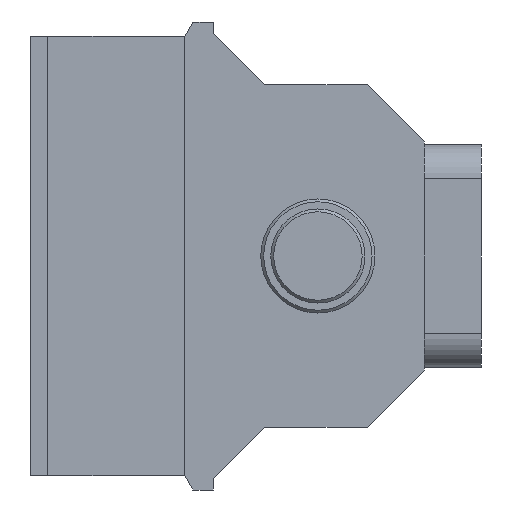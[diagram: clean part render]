
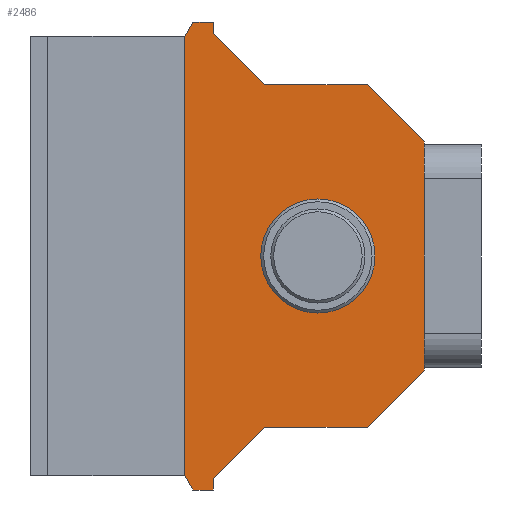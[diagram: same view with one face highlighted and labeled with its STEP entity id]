
A CAD part, left-side view. The second image highlights one B-rep face of the part: STEP entity #2486.
In plain terms, the highlighted planar face has unit normal (-1, 0, 0).
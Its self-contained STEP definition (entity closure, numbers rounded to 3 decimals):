
#41 = ORIENTED_EDGE ( 'NONE', *, *, #2057, .F. ) ;
#49 = CARTESIAN_POINT ( 'NONE',  ( -13.5, 20., 20. ) ) ;
#72 = CARTESIAN_POINT ( 'NONE',  ( -13.5, 57., -39. ) ) ;
#95 = LINE ( 'NONE', #1060, #2270 ) ;
#119 = CARTESIAN_POINT ( 'NONE',  ( -13.5, 57., 41. ) ) ;
#125 = DIRECTION ( 'NONE',  ( 0., -0.5, -0.866 ) ) ;
#128 = LINE ( 'NONE', #2067, #704 ) ;
#151 = CARTESIAN_POINT ( 'NONE',  ( -13.5, 38.66, -10. ) ) ;
#155 = DIRECTION ( 'NONE',  ( 0., 0., -1. ) ) ;
#170 = LINE ( 'NONE', #1134, #1700 ) ;
#180 = CARTESIAN_POINT ( 'NONE',  ( -13.5, 50.358, 58.665 ) ) ;
#183 = VERTEX_POINT ( 'NONE', #524 ) ;
#220 = VERTEX_POINT ( 'NONE', #1468 ) ;
#255 = ORIENTED_EDGE ( 'NONE', *, *, #728, .T. ) ;
#298 = CARTESIAN_POINT ( 'NONE',  ( -13.5, 30., -30. ) ) ;
#336 = EDGE_LOOP ( 'NONE', ( #1927, #255, #1070, #1413, #562, #544, #2282, #1771, #2419, #3004, #702, #2049, #2621, #2734, #593, #41 ) ) ;
#341 = CARTESIAN_POINT ( 'NONE',  ( -13.5, 62., 62.5 ) ) ;
#395 = VECTOR ( 'NONE', #155, 1000. ) ;
#397 = DIRECTION ( 'NONE',  ( 0., -0.707, -0.707 ) ) ;
#398 = LINE ( 'NONE', #119, #1436 ) ;
#399 = VECTOR ( 'NONE', #1048, 1000. ) ;
#405 = VERTEX_POINT ( 'NONE', #1525 ) ;
#416 = CARTESIAN_POINT ( 'NONE',  ( -13.5, 104.484, 35.085 ) ) ;
#434 = DIRECTION ( 'NONE',  ( 0., -1., 0. ) ) ;
#441 = VERTEX_POINT ( 'NONE', #72 ) ;
#524 = CARTESIAN_POINT ( 'NONE',  ( -13.5, 60.557, 41. ) ) ;
#537 = EDGE_CURVE ( 'NONE', #1449, #2655, #2766, .T. ) ;
#539 = VECTOR ( 'NONE', #397, 1000. ) ;
#543 = LINE ( 'NONE', #298, #399 ) ;
#544 = ORIENTED_EDGE ( 'NONE', *, *, #2920, .F. ) ;
#562 = ORIENTED_EDGE ( 'NONE', *, *, #2865, .T. ) ;
#590 = CARTESIAN_POINT ( 'NONE',  ( -13.5, 30., -30. ) ) ;
#593 = ORIENTED_EDGE ( 'NONE', *, *, #537, .F. ) ;
#605 = CARTESIAN_POINT ( 'NONE',  ( -13.5, 57., -41. ) ) ;
#610 = VERTEX_POINT ( 'NONE', #1216 ) ;
#620 = LINE ( 'NONE', #905, #395 ) ;
#702 = ORIENTED_EDGE ( 'NONE', *, *, #2680, .F. ) ;
#704 = VECTOR ( 'NONE', #1850, 1000. ) ;
#705 = CARTESIAN_POINT ( 'NONE',  ( -13.5, 20., -20. ) ) ;
#728 = EDGE_CURVE ( 'NONE', #183, #2311, #1581, .T. ) ;
#742 = LINE ( 'NONE', #771, #2071 ) ;
#764 = CARTESIAN_POINT ( 'NONE',  ( -13.5, 62., 38.5 ) ) ;
#771 = CARTESIAN_POINT ( 'NONE',  ( -13.5, 48., -30. ) ) ;
#781 = EDGE_CURVE ( 'NONE', #2735, #2238, #2338, .T. ) ;
#835 = AXIS2_PLACEMENT_3D ( 'NONE', #2761, #2995, #1852 ) ;
#897 = CARTESIAN_POINT ( 'NONE',  ( -13.5, 30., 30. ) ) ;
#905 = CARTESIAN_POINT ( 'NONE',  ( -13.5, 57., 62.5 ) ) ;
#925 = VERTEX_POINT ( 'NONE', #49 ) ;
#963 = DIRECTION ( 'NONE',  ( 0., 1., 0. ) ) ;
#973 = CIRCLE ( 'NONE', #835, 10. ) ;
#1001 = VECTOR ( 'NONE', #125, 1000. ) ;
#1014 = EDGE_LOOP ( 'NONE', ( #3002 ) ) ;
#1015 = LINE ( 'NONE', #341, #2194 ) ;
#1016 = DIRECTION ( 'NONE',  ( 0., 0.707, -0.707 ) ) ;
#1038 = VERTEX_POINT ( 'NONE', #2814 ) ;
#1048 = DIRECTION ( 'NONE',  ( 0., 0.707, -0.707 ) ) ;
#1060 = CARTESIAN_POINT ( 'NONE',  ( -13.5, 20., -20. ) ) ;
#1070 = ORIENTED_EDGE ( 'NONE', *, *, #2536, .F. ) ;
#1087 = VERTEX_POINT ( 'NONE', #2874 ) ;
#1131 = DIRECTION ( 'NONE',  ( 0., 1., 0. ) ) ;
#1134 = CARTESIAN_POINT ( 'NONE',  ( -13.5, 57., -39. ) ) ;
#1216 = CARTESIAN_POINT ( 'NONE',  ( -13.5, 20., 19.5 ) ) ;
#1306 = DIRECTION ( 'NONE',  ( 0., 0., 1. ) ) ;
#1310 = CARTESIAN_POINT ( 'NONE',  ( -13.5, 57., 39. ) ) ;
#1357 = EDGE_CURVE ( 'NONE', #1820, #1820, #973, .T. ) ;
#1368 = EDGE_CURVE ( 'NONE', #2238, #441, #742, .T. ) ;
#1413 = ORIENTED_EDGE ( 'NONE', *, *, #2793, .T. ) ;
#1433 = DIRECTION ( 'NONE',  ( 0., 0., -1. ) ) ;
#1436 = VECTOR ( 'NONE', #1131, 1000. ) ;
#1441 = EDGE_CURVE ( 'NONE', #925, #610, #95, .T. ) ;
#1449 = VERTEX_POINT ( 'NONE', #1310 ) ;
#1468 = CARTESIAN_POINT ( 'NONE',  ( -13.5, 57., -41. ) ) ;
#1494 = CARTESIAN_POINT ( 'NONE',  ( -13.5, 62., -38.5 ) ) ;
#1525 = CARTESIAN_POINT ( 'NONE',  ( -13.5, 20., -19.5 ) ) ;
#1581 = LINE ( 'NONE', #180, #2340 ) ;
#1658 = FACE_OUTER_BOUND ( 'NONE', #336, .T. ) ;
#1662 = LINE ( 'NONE', #2341, #1834 ) ;
#1677 = VERTEX_POINT ( 'NONE', #2929 ) ;
#1700 = VECTOR ( 'NONE', #2999, 1000. ) ;
#1703 = DIRECTION ( 'NONE',  ( 1., 0., 0. ) ) ;
#1749 = CARTESIAN_POINT ( 'NONE',  ( -13.5, 20., -20. ) ) ;
#1771 = ORIENTED_EDGE ( 'NONE', *, *, #781, .F. ) ;
#1794 = AXIS2_PLACEMENT_3D ( 'NONE', #2853, #1703, #2630 ) ;
#1811 = LINE ( 'NONE', #605, #3012 ) ;
#1820 = VERTEX_POINT ( 'NONE', #151 ) ;
#1828 = LINE ( 'NONE', #416, #1001 ) ;
#1834 = VECTOR ( 'NONE', #1433, 1000. ) ;
#1838 = DIRECTION ( 'NONE',  ( 0., 0.5, -0.866 ) ) ;
#1850 = DIRECTION ( 'NONE',  ( 0., -0.707, -0.707 ) ) ;
#1852 = DIRECTION ( 'NONE',  ( 0., 0., -1. ) ) ;
#1866 = CARTESIAN_POINT ( 'NONE',  ( -13.5, 48., -30. ) ) ;
#1927 = ORIENTED_EDGE ( 'NONE', *, *, #2018, .T. ) ;
#1929 = PLANE ( 'NONE',  #1794 ) ;
#1945 = VERTEX_POINT ( 'NONE', #1494 ) ;
#2018 = EDGE_CURVE ( 'NONE', #1087, #183, #398, .T. ) ;
#2046 = CARTESIAN_POINT ( 'NONE',  ( -13.5, 57., 39. ) ) ;
#2049 = ORIENTED_EDGE ( 'NONE', *, *, #1441, .F. ) ;
#2057 = EDGE_CURVE ( 'NONE', #1087, #1449, #620, .T. ) ;
#2067 = CARTESIAN_POINT ( 'NONE',  ( -13.5, 20., 20. ) ) ;
#2071 = VECTOR ( 'NONE', #1016, 1000. ) ;
#2086 = EDGE_CURVE ( 'NONE', #405, #2172, #1662, .T. ) ;
#2088 = VECTOR ( 'NONE', #2597, 1000. ) ;
#2150 = FACE_BOUND ( 'NONE', #1014, .T. ) ;
#2172 = VERTEX_POINT ( 'NONE', #1749 ) ;
#2194 = VECTOR ( 'NONE', #1306, 1000. ) ;
#2204 = EDGE_CURVE ( 'NONE', #2172, #2735, #543, .T. ) ;
#2238 = VERTEX_POINT ( 'NONE', #2259 ) ;
#2259 = CARTESIAN_POINT ( 'NONE',  ( -13.5, 48., -30. ) ) ;
#2270 = VECTOR ( 'NONE', #2964, 1000. ) ;
#2282 = ORIENTED_EDGE ( 'NONE', *, *, #1368, .F. ) ;
#2291 = VECTOR ( 'NONE', #434, 1000. ) ;
#2311 = VERTEX_POINT ( 'NONE', #764 ) ;
#2317 = CARTESIAN_POINT ( 'NONE',  ( -13.5, 48., 30. ) ) ;
#2338 = LINE ( 'NONE', #1866, #3030 ) ;
#2340 = VECTOR ( 'NONE', #1838, 1000. ) ;
#2341 = CARTESIAN_POINT ( 'NONE',  ( -13.5, 20., -20. ) ) ;
#2419 = ORIENTED_EDGE ( 'NONE', *, *, #2204, .F. ) ;
#2486 = ADVANCED_FACE ( 'NONE', ( #2150, #1658 ), #1929, .F. ) ;
#2536 = EDGE_CURVE ( 'NONE', #1945, #2311, #1015, .T. ) ;
#2570 = EDGE_CURVE ( 'NONE', #1677, #925, #128, .T. ) ;
#2585 = LINE ( 'NONE', #705, #2088 ) ;
#2597 = DIRECTION ( 'NONE',  ( 0., 0., -1. ) ) ;
#2621 = ORIENTED_EDGE ( 'NONE', *, *, #2570, .F. ) ;
#2630 = DIRECTION ( 'NONE',  ( 0., 0., -1. ) ) ;
#2655 = VERTEX_POINT ( 'NONE', #2317 ) ;
#2661 = EDGE_CURVE ( 'NONE', #2655, #1677, #3007, .T. ) ;
#2680 = EDGE_CURVE ( 'NONE', #610, #405, #2585, .T. ) ;
#2715 = DIRECTION ( 'NONE',  ( 0., -1., 0. ) ) ;
#2734 = ORIENTED_EDGE ( 'NONE', *, *, #2661, .F. ) ;
#2735 = VERTEX_POINT ( 'NONE', #590 ) ;
#2761 = CARTESIAN_POINT ( 'NONE',  ( -13.5, 38.66, 0. ) ) ;
#2766 = LINE ( 'NONE', #2046, #539 ) ;
#2793 = EDGE_CURVE ( 'NONE', #1945, #1038, #1828, .T. ) ;
#2814 = CARTESIAN_POINT ( 'NONE',  ( -13.5, 60.557, -41. ) ) ;
#2853 = CARTESIAN_POINT ( 'NONE',  ( -13.5, 57., 62.5 ) ) ;
#2865 = EDGE_CURVE ( 'NONE', #1038, #220, #1811, .T. ) ;
#2874 = CARTESIAN_POINT ( 'NONE',  ( -13.5, 57., 41. ) ) ;
#2920 = EDGE_CURVE ( 'NONE', #441, #220, #170, .T. ) ;
#2929 = CARTESIAN_POINT ( 'NONE',  ( -13.5, 30., 30. ) ) ;
#2964 = DIRECTION ( 'NONE',  ( 0., 0., -1. ) ) ;
#2995 = DIRECTION ( 'NONE',  ( -1., 0., 0. ) ) ;
#2999 = DIRECTION ( 'NONE',  ( 0., 0., -1. ) ) ;
#3002 = ORIENTED_EDGE ( 'NONE', *, *, #1357, .F. ) ;
#3004 = ORIENTED_EDGE ( 'NONE', *, *, #2086, .F. ) ;
#3007 = LINE ( 'NONE', #897, #2291 ) ;
#3012 = VECTOR ( 'NONE', #2715, 1000. ) ;
#3030 = VECTOR ( 'NONE', #963, 1000. ) ;
